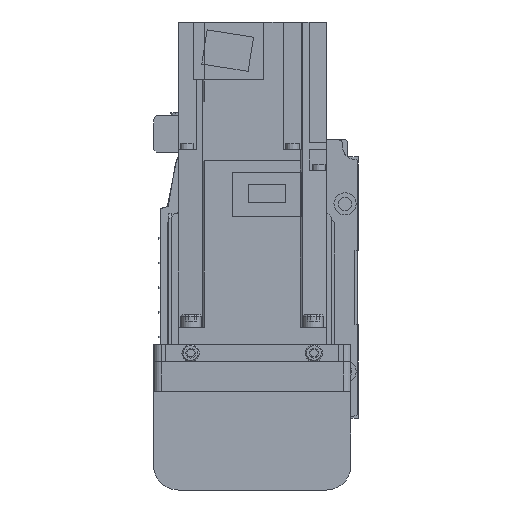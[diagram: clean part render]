
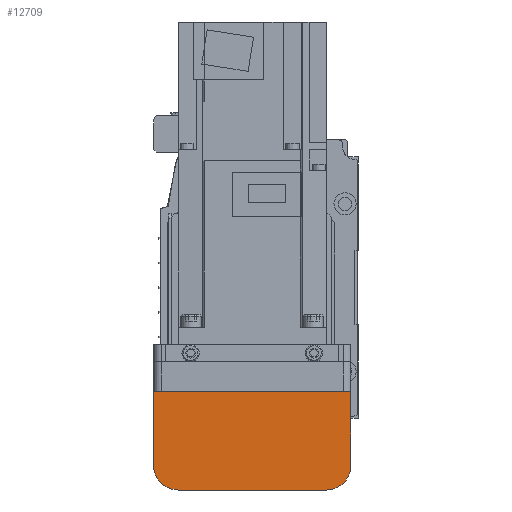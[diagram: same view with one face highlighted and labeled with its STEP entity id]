
A CAD part, left-side view. The second image highlights one B-rep face of the part: STEP entity #12709.
In plain terms, the highlighted planar face has unit normal (-1, 0, 0).
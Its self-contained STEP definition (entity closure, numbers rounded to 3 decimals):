
#495=CIRCLE('',#13687,10.);
#496=CIRCLE('',#13688,10.);
#2182=ORIENTED_EDGE('',*,*,#5133,.F.);
#2183=ORIENTED_EDGE('',*,*,#5134,.F.);
#2184=ORIENTED_EDGE('',*,*,#5135,.F.);
#2185=ORIENTED_EDGE('',*,*,#5136,.F.);
#2186=ORIENTED_EDGE('',*,*,#5137,.F.);
#2187=ORIENTED_EDGE('',*,*,#5138,.F.);
#5133=EDGE_CURVE('',#6715,#6711,#8009,.T.);
#5134=EDGE_CURVE('',#6727,#6715,#8010,.T.);
#5135=EDGE_CURVE('',#6728,#6727,#495,.T.);
#5136=EDGE_CURVE('',#6729,#6728,#8011,.T.);
#5137=EDGE_CURVE('',#6730,#6729,#496,.T.);
#5138=EDGE_CURVE('',#6711,#6730,#8012,.T.);
#6711=VERTEX_POINT('',#19879);
#6715=VERTEX_POINT('',#19889);
#6727=VERTEX_POINT('',#19918);
#6728=VERTEX_POINT('',#19920);
#6729=VERTEX_POINT('',#19922);
#6730=VERTEX_POINT('',#19924);
#8009=LINE('',#19916,#9237);
#8010=LINE('',#19917,#9238);
#8011=LINE('',#19921,#9239);
#8012=LINE('',#19925,#9240);
#9237=VECTOR('',#15976,1000.);
#9238=VECTOR('',#15977,1000.);
#9239=VECTOR('',#15980,1000.);
#9240=VECTOR('',#15983,1000.);
#10292=EDGE_LOOP('',(#2182,#2183,#2184,#2185,#2186,#2187));
#11294=FACE_BOUND('',#10292,.T.);
#12139=PLANE('',#13686);
#12709=ADVANCED_FACE('',(#11294),#12139,.F.);
#13686=AXIS2_PLACEMENT_3D('',#19915,#15974,#15975);
#13687=AXIS2_PLACEMENT_3D('',#19919,#15978,#15979);
#13688=AXIS2_PLACEMENT_3D('',#19923,#15981,#15982);
#15974=DIRECTION('',(1.,0.,0.));
#15975=DIRECTION('',(0.,0.,-1.));
#15976=DIRECTION('',(0.,-1.,0.));
#15977=DIRECTION('',(0.,0.,1.));
#15978=DIRECTION('',(1.,0.,0.));
#15979=DIRECTION('',(0.,0.,-1.));
#15980=DIRECTION('',(0.,1.,0.));
#15981=DIRECTION('',(1.,0.,0.));
#15982=DIRECTION('',(0.,0.,-1.));
#15983=DIRECTION('',(0.,0.,-1.));
#19879=CARTESIAN_POINT('',(-192.,-40.,-12.1));
#19889=CARTESIAN_POINT('',(-192.,40.,-12.1));
#19915=CARTESIAN_POINT('',(-192.,37.,7.));
#19916=CARTESIAN_POINT('',(-192.,50.,-12.1));
#19917=CARTESIAN_POINT('',(-192.,40.,-42.));
#19918=CARTESIAN_POINT('',(-192.,40.,-42.));
#19919=CARTESIAN_POINT('',(-192.,30.,-42.));
#19920=CARTESIAN_POINT('',(-192.,30.,-52.));
#19921=CARTESIAN_POINT('',(-192.,-30.,-52.));
#19922=CARTESIAN_POINT('',(-192.,-30.,-52.));
#19923=CARTESIAN_POINT('',(-192.,-30.,-42.));
#19924=CARTESIAN_POINT('',(-192.,-40.,-42.));
#19925=CARTESIAN_POINT('',(-192.,-40.,-12.1));
